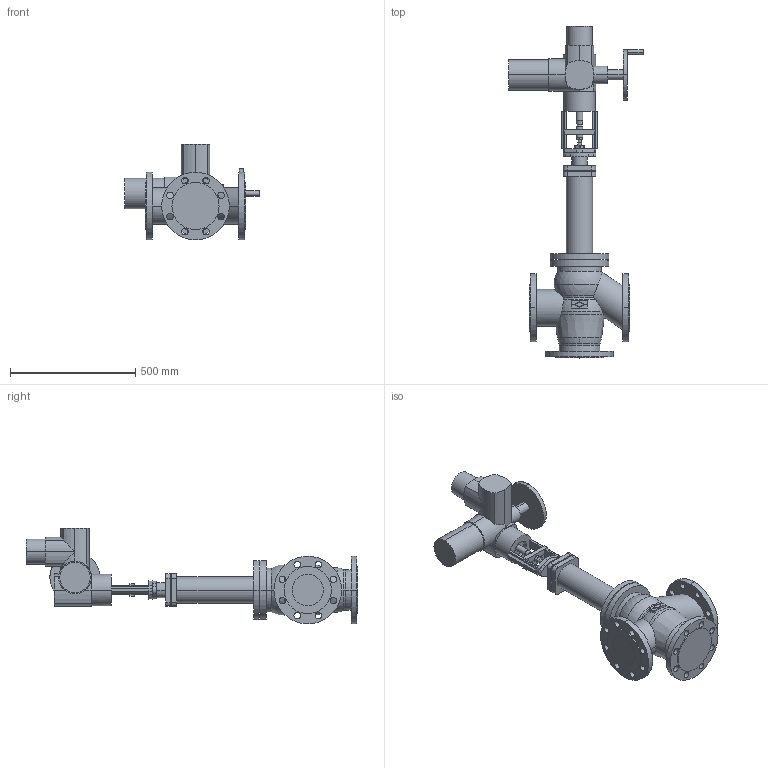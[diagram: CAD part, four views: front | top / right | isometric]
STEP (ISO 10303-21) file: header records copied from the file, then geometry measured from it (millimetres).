
FILE_DESCRIPTION(('OneSpaceDesigner STEP Export'),'2;1');
FILE_NAME('c000003213.stp','2007-01-25T11:55:06',(''),(''),'OneSpace Designer STEP processor for AP214 (Solid Model)','OneSpace Designer 14.00B 27-May-2006 (C) CoCreate Software GmbH','');
FILE_SCHEMA(('AUTOMOTIVE_DESIGN { 1 0 10303 214 1 1 1 1 }'));
Length unit declared in the file: millimetre
Products named in the file (2): 1; 2
Bounding box: 536 x 1323.2 x 382 mm (x, y, z)
Volume: 32661545.6 mm3; surface area: 1457863.6 mm2
Topology: 2 solids, 2 shells, 362 faces, 935 edges, 594 vertices
Faces by surface type: cylinder 186, plane 154, torus 8, sphere 8, cone 6
Entity records: 10535 total; most frequent: CARTESIAN_POINT 2312, ORIENTED_EDGE 1854, DIRECTION 1528, EDGE_CURVE 927, VERTEX_POINT 594, AXIS2_PLACEMENT_3D 535, VECTOR 458, LINE 458
